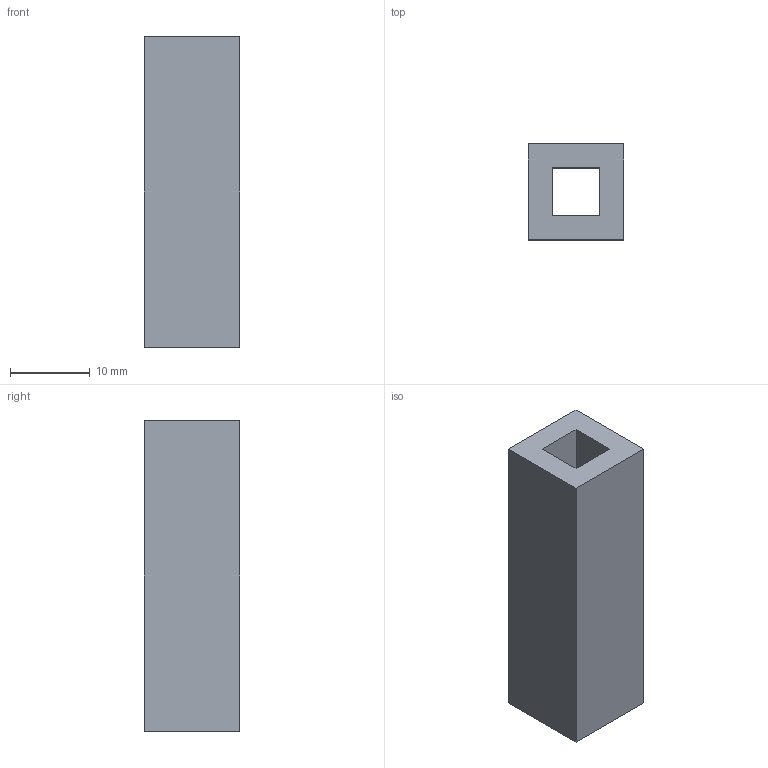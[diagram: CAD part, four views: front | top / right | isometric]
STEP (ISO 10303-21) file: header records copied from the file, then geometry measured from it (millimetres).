
FILE_DESCRIPTION(('Open CASCADE Model'),'2;1');
FILE_NAME('Open CASCADE Shape Model','2026-10-04T02:31:34',('Author'),( 'Open CASCADE'),'Open CASCADE STEP processor 8.0','Open CASCADE 8.0' ,'Unknown');
FILE_SCHEMA(('AUTOMOTIVE_DESIGN { 1 0 10303 214 1 1 1 1 }'));
Length unit declared in the file: millimetre
Products named in the file (1): Open CASCADE STEP translator 8.0 26
Bounding box: 12 x 12 x 39 mm (x, y, z)
Volume: 4212 mm3; surface area: 3024 mm2
Topology: 1 solids, 1 shells, 10 faces, 24 edges, 16 vertices
Faces by surface type: plane 10
Entity records: 598 total; most frequent: CARTESIAN_POINT 115, DIRECTION 78, LINE 56, VECTOR 56, ORIENTED_EDGE 48, PCURVE 48, DEFINITIONAL_REPRESENTATION 48, EDGE_CURVE 24
